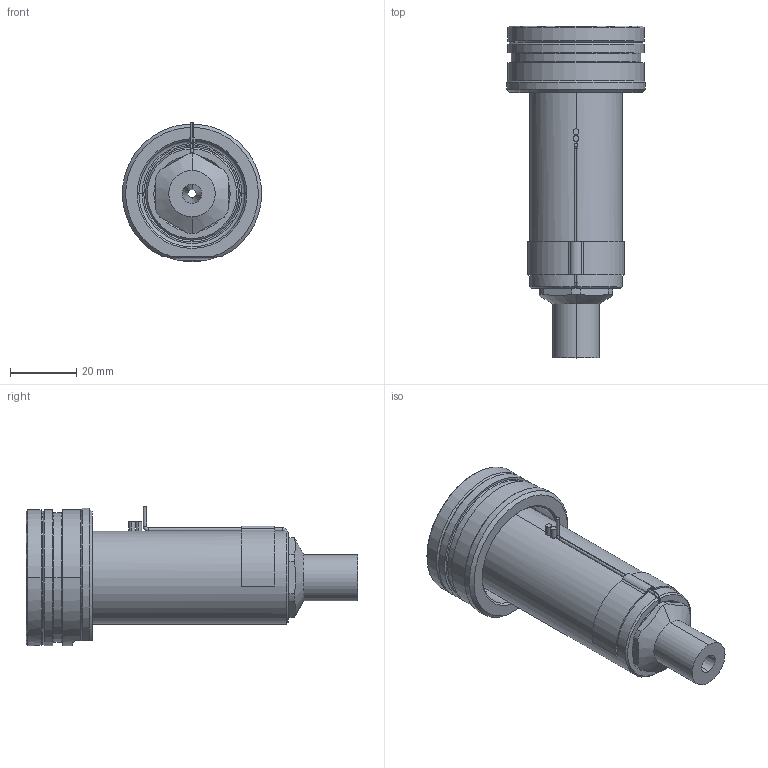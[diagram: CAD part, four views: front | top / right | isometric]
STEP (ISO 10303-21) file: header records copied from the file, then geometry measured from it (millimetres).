
FILE_DESCRIPTION((''),'2;1');
FILE_NAME('EO10_VG-ST_ESG_070_SW','2024-02-19T12:47:44',('sundharh'),(''),'CREO PARAMETRIC BY PTC INC, 2023154','CREO PARAMETRIC BY PTC INC, 2023154','');
FILE_SCHEMA(('CONFIG_CONTROL_DESIGN'));
Length unit declared in the file: millimetre
Products named in the file (1): EO10_VG-ST_ESG_070_SW
Bounding box: 41.85 x 100 x 42.02 mm (x, y, z)
Volume: 57916.6 mm3; surface area: 17168.8 mm2
Topology: 1 solids, 1 shells, 165 faces, 424 edges, 263 vertices
Faces by surface type: cylinder 63, plane 45, cone 33, torus 17, bspline 5, sphere 2
Entity records: 5739 total; most frequent: CARTESIAN_POINT 1635, DIRECTION 895, ORIENTED_EDGE 844, EDGE_CURVE 422, AXIS2_PLACEMENT_3D 369, VERTEX_POINT 263, CIRCLE 209, EDGE_LOOP 179
